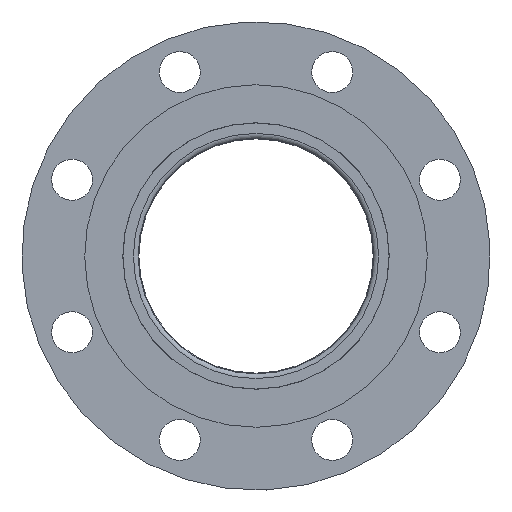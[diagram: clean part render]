
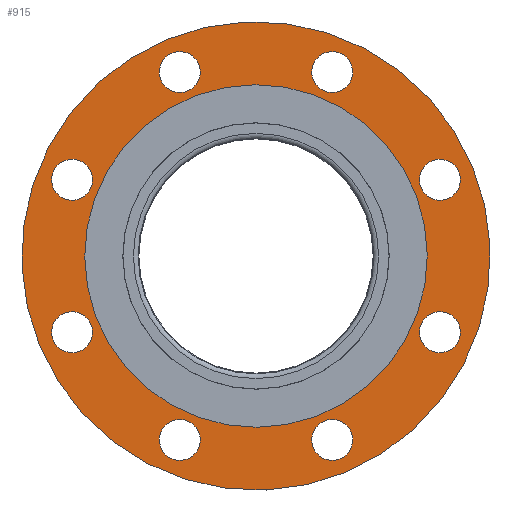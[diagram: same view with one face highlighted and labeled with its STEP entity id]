
A CAD part, front view. The second image highlights one B-rep face of the part: STEP entity #915.
In plain terms, the highlighted planar face has unit normal (0, -1, 0) as drawn and (0, 0, -1) by its records, which use the part's own axes.
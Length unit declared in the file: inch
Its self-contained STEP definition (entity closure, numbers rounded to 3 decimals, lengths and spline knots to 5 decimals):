
#776=CARTESIAN_POINT('',(3.375,0.,0.0));
#777=VERTEX_POINT('',#776);
#778=CARTESIAN_POINT('',(0.0,0.0,0.0));
#779=DIRECTION('',(0.0,0.0,-1.0));
#780=DIRECTION('',(-1.0,0.0,0.0));
#781=AXIS2_PLACEMENT_3D('',#778,#779,#780);
#782=CIRCLE('',#781,3.375);
#783=EDGE_CURVE('',#777,#777,#782,.T.);
#808=CARTESIAN_POINT('',(0.0,0.0,0.0));
#809=DIRECTION('',(0.0,0.0,-1.0));
#810=DIRECTION('',(-1.0,0.0,0.0));
#811=AXIS2_PLACEMENT_3D('',#808,#809,#810);
#812=PLANE('',#811);
#813=CARTESIAN_POINT('',(5.0,0.,0.0));
#814=VERTEX_POINT('',#813);
#815=CARTESIAN_POINT('',(0.0,0.0,0.0));
#816=DIRECTION('',(0.0,0.0,-1.0));
#817=DIRECTION('',(-1.0,0.0,0.0));
#818=AXIS2_PLACEMENT_3D('',#815,#816,#817);
#819=CIRCLE('',#818,5.0);
#820=EDGE_CURVE('',#814,#814,#819,.T.);
#821=ORIENTED_EDGE('',*,*,#820,.T.);
#822=EDGE_LOOP('',(#821));
#823=FACE_OUTER_BOUND('',#822,.T.);
#824=CARTESIAN_POINT('',(-0.4375,4.25,0.0));
#825=VERTEX_POINT('',#824);
#826=CARTESIAN_POINT('',(0.0,4.25,0.0));
#827=DIRECTION('',(0.0,0.0,1.0));
#828=DIRECTION('',(-1.0,0.0,0.0));
#829=AXIS2_PLACEMENT_3D('',#826,#827,#828);
#830=CIRCLE('',#829,0.4375);
#831=EDGE_CURVE('',#825,#825,#830,.T.);
#832=ORIENTED_EDGE('',*,*,#831,.T.);
#833=EDGE_LOOP('',(#832));
#834=FACE_BOUND('',#833,.T.);
#835=CARTESIAN_POINT('',(-3.31456,2.69584,0.0));
#836=VERTEX_POINT('',#835);
#837=CARTESIAN_POINT('',(-3.0052,3.0052,0.0));
#838=DIRECTION('',(0.0,0.0,1.0));
#839=DIRECTION('',(-0.707,-0.707,0.0));
#840=AXIS2_PLACEMENT_3D('',#837,#838,#839);
#841=CIRCLE('',#840,0.4375);
#842=EDGE_CURVE('',#836,#836,#841,.T.);
#843=ORIENTED_EDGE('',*,*,#842,.T.);
#844=EDGE_LOOP('',(#843));
#845=FACE_BOUND('',#844,.T.);
#846=CARTESIAN_POINT('',(-4.25,-0.4375,0.0));
#847=VERTEX_POINT('',#846);
#848=CARTESIAN_POINT('',(-4.25,0.0,0.0));
#849=DIRECTION('',(0.0,0.0,1.0));
#850=DIRECTION('',(0.0,-1.0,0.0));
#851=AXIS2_PLACEMENT_3D('',#848,#849,#850);
#852=CIRCLE('',#851,0.4375);
#853=EDGE_CURVE('',#847,#847,#852,.T.);
#854=ORIENTED_EDGE('',*,*,#853,.T.);
#855=EDGE_LOOP('',(#854));
#856=FACE_BOUND('',#855,.T.);
#857=CARTESIAN_POINT('',(-2.69584,-3.31456,0.0));
#858=VERTEX_POINT('',#857);
#859=CARTESIAN_POINT('',(-3.0052,-3.0052,0.0));
#860=DIRECTION('',(0.0,0.0,1.0));
#861=DIRECTION('',(0.707,-0.707,0.0));
#862=AXIS2_PLACEMENT_3D('',#859,#860,#861);
#863=CIRCLE('',#862,0.4375);
#864=EDGE_CURVE('',#858,#858,#863,.T.);
#865=ORIENTED_EDGE('',*,*,#864,.T.);
#866=EDGE_LOOP('',(#865));
#867=FACE_BOUND('',#866,.T.);
#868=CARTESIAN_POINT('',(0.4375,-4.25,0.0));
#869=VERTEX_POINT('',#868);
#870=CARTESIAN_POINT('',(0.,-4.25,0.0));
#871=DIRECTION('',(0.0,0.0,1.0));
#872=DIRECTION('',(1.0,0.0,0.0));
#873=AXIS2_PLACEMENT_3D('',#870,#871,#872);
#874=CIRCLE('',#873,0.4375);
#875=EDGE_CURVE('',#869,#869,#874,.T.);
#876=ORIENTED_EDGE('',*,*,#875,.T.);
#877=EDGE_LOOP('',(#876));
#878=FACE_BOUND('',#877,.T.);
#879=CARTESIAN_POINT('',(3.31456,-2.69584,0.0));
#880=VERTEX_POINT('',#879);
#881=CARTESIAN_POINT('',(3.0052,-3.0052,0.0));
#882=DIRECTION('',(0.0,0.0,1.0));
#883=DIRECTION('',(0.707,0.707,0.0));
#884=AXIS2_PLACEMENT_3D('',#881,#882,#883);
#885=CIRCLE('',#884,0.4375);
#886=EDGE_CURVE('',#880,#880,#885,.T.);
#887=ORIENTED_EDGE('',*,*,#886,.T.);
#888=EDGE_LOOP('',(#887));
#889=FACE_BOUND('',#888,.T.);
#890=CARTESIAN_POINT('',(4.25,0.4375,0.0));
#891=VERTEX_POINT('',#890);
#892=CARTESIAN_POINT('',(4.25,0.,0.0));
#893=DIRECTION('',(0.0,0.0,1.0));
#894=DIRECTION('',(0.0,1.0,0.0));
#895=AXIS2_PLACEMENT_3D('',#892,#893,#894);
#896=CIRCLE('',#895,0.4375);
#897=EDGE_CURVE('',#891,#891,#896,.T.);
#898=ORIENTED_EDGE('',*,*,#897,.T.);
#899=EDGE_LOOP('',(#898));
#900=FACE_BOUND('',#899,.T.);
#901=CARTESIAN_POINT('',(2.69584,3.31456,0.0));
#902=VERTEX_POINT('',#901);
#903=CARTESIAN_POINT('',(3.0052,3.0052,0.0));
#904=DIRECTION('',(0.0,0.0,1.0));
#905=DIRECTION('',(-0.707,0.707,0.0));
#906=AXIS2_PLACEMENT_3D('',#903,#904,#905);
#907=CIRCLE('',#906,0.4375);
#908=EDGE_CURVE('',#902,#902,#907,.T.);
#909=ORIENTED_EDGE('',*,*,#908,.T.);
#910=EDGE_LOOP('',(#909));
#911=FACE_BOUND('',#910,.T.);
#912=ORIENTED_EDGE('',*,*,#783,.F.);
#913=EDGE_LOOP('',(#912));
#914=FACE_BOUND('',#913,.T.);
#915=ADVANCED_FACE('',(#823,#834,#845,#856,#867,#878,#889,#900,#911,#914),#812,.T.);
